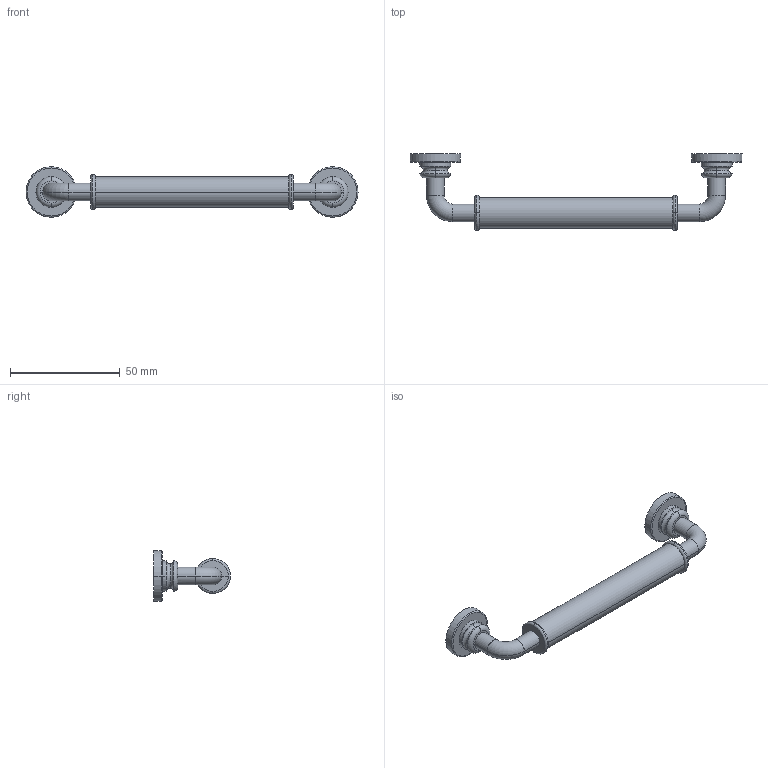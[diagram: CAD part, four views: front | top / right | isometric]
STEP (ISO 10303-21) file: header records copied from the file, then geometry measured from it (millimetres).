
FILE_DESCRIPTION( ( '' ), '1' );
FILE_NAME( 'D:/1.AUTOCAD EXPORT/Group 10/sheet_10_1/9132268.stp', '2013-10-21T04:48:10', ( '' ), ( '' ), ' ', ' ', ' ' );
FILE_SCHEMA( ( 'automotive_design' ) );
Length unit declared in the file: millimetre
Products named in the file (1): 1
Bounding box: 151 x 35 x 23 mm (x, y, z)
Volume: 22182.3 mm3; surface area: 8898.1 mm2
Topology: 1 solids, 1 shells, 95 faces, 230 edges, 141 vertices
Faces by surface type: torus 40, cone 24, cylinder 22, plane 9
Entity records: 5557 total; most frequent: DIRECTION 598, CARTESIAN_POINT 545, STYLED_ITEM 467, PRESENTATION_STYLE_ASSIGNMENT 467, COLOUR_RGB 467, ORIENTED_EDGE 460, AXIS2_PLACEMENT_3D 276, EDGE_CURVE 230
